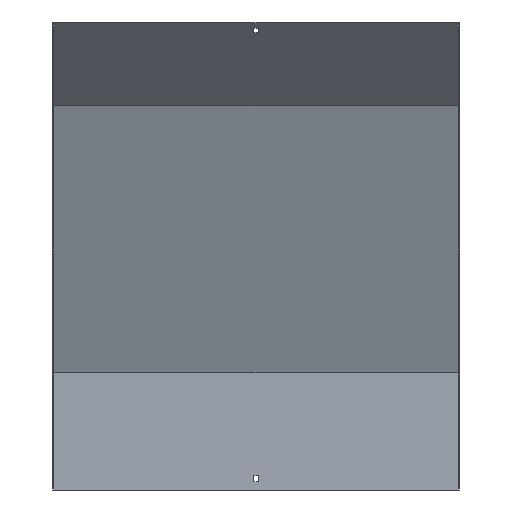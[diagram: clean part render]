
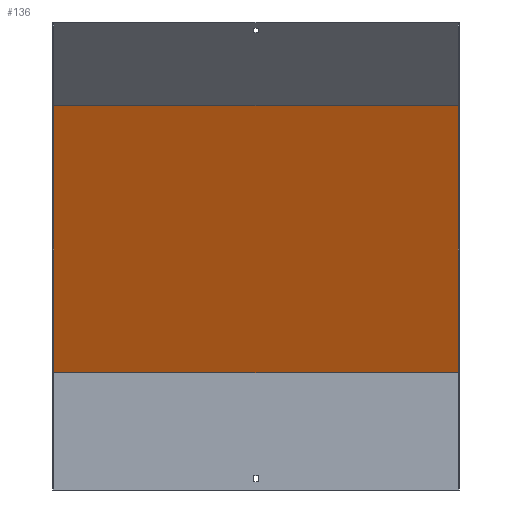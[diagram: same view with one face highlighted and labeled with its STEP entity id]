
A CAD part, front view. The second image highlights one B-rep face of the part: STEP entity #136.
In plain terms, the highlighted planar face has unit normal (0, -0.924, -0.383).
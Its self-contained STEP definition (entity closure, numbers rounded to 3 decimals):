
#23 = LINE ( 'NONE', #545, #387 ) ;
#27 = CARTESIAN_POINT ( 'NONE',  ( 300., -145.809, 570.357 ) ) ;
#32 = VECTOR ( 'NONE', #493, 1000. ) ;
#43 = VECTOR ( 'NONE', #652, 1000. ) ;
#49 = EDGE_LOOP ( 'NONE', ( #513, #205, #470, #295 ) ) ;
#109 = PLANE ( 'NONE',  #389 ) ;
#118 = CARTESIAN_POINT ( 'NONE',  ( -300., 77.196, 31.976 ) ) ;
#136 = ADVANCED_FACE ( 'NONE', ( #379 ), #109, .T. ) ;
#205 = ORIENTED_EDGE ( 'NONE', *, *, #853, .F. ) ;
#209 = VERTEX_POINT ( 'NONE', #648 ) ;
#279 = LINE ( 'NONE', #730, #289 ) ;
#289 = VECTOR ( 'NONE', #742, 1000. ) ;
#295 = ORIENTED_EDGE ( 'NONE', *, *, #442, .T. ) ;
#355 = LINE ( 'NONE', #743, #32 ) ;
#358 = VERTEX_POINT ( 'NONE', #27 ) ;
#360 = DIRECTION ( 'NONE',  ( -1., 0., 0. ) ) ;
#365 = EDGE_CURVE ( 'NONE', #734, #358, #355, .T. ) ;
#379 = FACE_OUTER_BOUND ( 'NONE', #49, .T. ) ;
#387 = VECTOR ( 'NONE', #360, 1000. ) ;
#389 = AXIS2_PLACEMENT_3D ( 'NONE', #635, #508, #778 ) ;
#442 = EDGE_CURVE ( 'NONE', #358, #492, #23, .T. ) ;
#470 = ORIENTED_EDGE ( 'NONE', *, *, #365, .T. ) ;
#492 = VERTEX_POINT ( 'NONE', #797 ) ;
#493 = DIRECTION ( 'NONE',  ( 0., -0.383, 0.924 ) ) ;
#508 = DIRECTION ( 'NONE',  ( 0., -0.924, -0.383 ) ) ;
#513 = ORIENTED_EDGE ( 'NONE', *, *, #815, .F. ) ;
#545 = CARTESIAN_POINT ( 'NONE',  ( 301.5, -145.809, 570.357 ) ) ;
#607 = CARTESIAN_POINT ( 'NONE',  ( 300., 18.5, 173.68 ) ) ;
#635 = CARTESIAN_POINT ( 'NONE',  ( 301.5, 17.092, 177.08 ) ) ;
#648 = CARTESIAN_POINT ( 'NONE',  ( -300., 18.5, 173.68 ) ) ;
#652 = DIRECTION ( 'NONE',  ( 0., -0.383, 0.924 ) ) ;
#708 = LINE ( 'NONE', #118, #43 ) ;
#730 = CARTESIAN_POINT ( 'NONE',  ( 301.5, 18.5, 173.68 ) ) ;
#734 = VERTEX_POINT ( 'NONE', #607 ) ;
#742 = DIRECTION ( 'NONE',  ( -1., 0., 0. ) ) ;
#743 = CARTESIAN_POINT ( 'NONE',  ( 300., 77.196, 31.976 ) ) ;
#778 = DIRECTION ( 'NONE',  ( 0., 0.383, -0.924 ) ) ;
#797 = CARTESIAN_POINT ( 'NONE',  ( -300., -145.809, 570.357 ) ) ;
#815 = EDGE_CURVE ( 'NONE', #209, #492, #708, .T. ) ;
#853 = EDGE_CURVE ( 'NONE', #734, #209, #279, .T. ) ;
